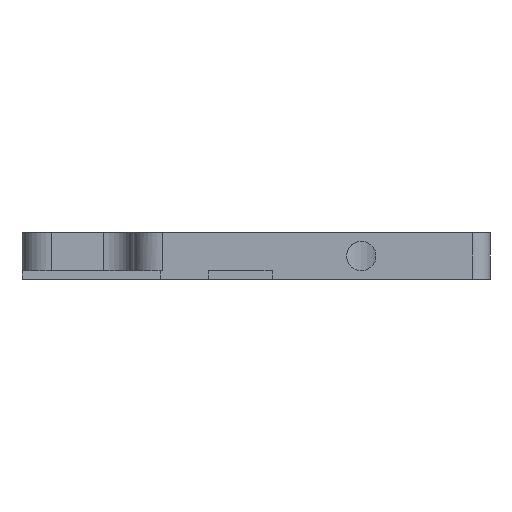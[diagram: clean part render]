
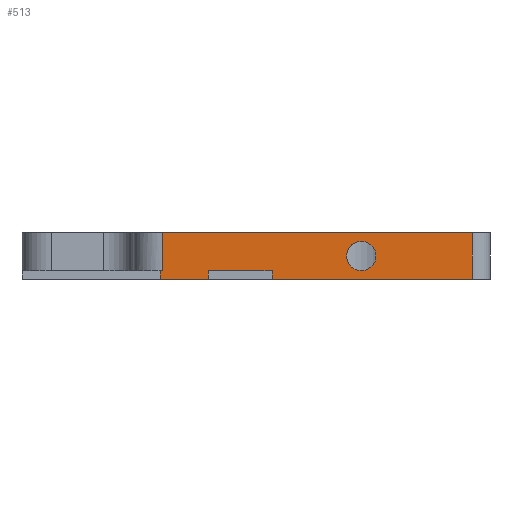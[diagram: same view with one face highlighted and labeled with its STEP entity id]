
A CAD part, left-side view. The second image highlights one B-rep face of the part: STEP entity #513.
In plain terms, the highlighted planar face has unit normal (-1, 0, 0).
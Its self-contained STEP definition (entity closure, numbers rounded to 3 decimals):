
#20 = CARTESIAN_POINT ( 'NONE',  ( 0., 22., 4. ) ) ;
#29 = DIRECTION ( 'NONE',  ( 0., 0., 1. ) ) ;
#32 = DIRECTION ( 'NONE',  ( -1., 0., 0. ) ) ;
#67 = VERTEX_POINT ( 'NONE', #803 ) ;
#112 = VERTEX_POINT ( 'NONE', #896 ) ;
#124 = VERTEX_POINT ( 'NONE', #899 ) ;
#125 = EDGE_CURVE ( 'NONE', #124, #112, #898, .T. ) ;
#170 = EDGE_CURVE ( 'NONE', #394, #289, #937, .T. ) ;
#177 = VERTEX_POINT ( 'NONE', #953 ) ;
#178 = VERTEX_POINT ( 'NONE', #970 ) ;
#252 = EDGE_CURVE ( 'NONE', #347, #67, #1123, .T. ) ;
#257 = VERTEX_POINT ( 'NONE', #1049 ) ;
#259 = EDGE_CURVE ( 'NONE', #257, #67, #1031, .T. ) ;
#289 = VERTEX_POINT ( 'NONE', #1393 ) ;
#295 = EDGE_CURVE ( 'NONE', #394, #177, #1403, .T. ) ;
#347 = VERTEX_POINT ( 'NONE', #1250 ) ;
#394 = VERTEX_POINT ( 'NONE', #1346 ) ;
#413 = EDGE_LOOP ( 'NONE', ( #414, #512 ) ) ;
#414 = ORIENTED_EDGE ( 'NONE', *, *, #530, .F. ) ;
#426 = VERTEX_POINT ( 'NONE', #1430 ) ;
#509 = ORIENTED_EDGE ( 'NONE', *, *, #515, .T. ) ;
#510 = EDGE_LOOP ( 'NONE', ( #522, #509, #525, #524, #529, #528, #599, #523, #517, #527 ) ) ;
#512 = ORIENTED_EDGE ( 'NONE', *, *, #125, .F. ) ;
#513 = ADVANCED_FACE ( 'NONE', ( #1905, #1894 ), #1812, .F. ) ;
#514 = VERTEX_POINT ( 'NONE', #1842 ) ;
#515 = EDGE_CURVE ( 'NONE', #257, #178, #1814, .T. ) ;
#516 = EDGE_CURVE ( 'NONE', #426, #177, #1888, .T. ) ;
#517 = ORIENTED_EDGE ( 'NONE', *, *, #601, .F. ) ;
#522 = ORIENTED_EDGE ( 'NONE', *, *, #259, .F. ) ;
#523 = ORIENTED_EDGE ( 'NONE', *, *, #600, .F. ) ;
#524 = ORIENTED_EDGE ( 'NONE', *, *, #516, .T. ) ;
#525 = ORIENTED_EDGE ( 'NONE', *, *, #602, .T. ) ;
#526 = VERTEX_POINT ( 'NONE', #1743 ) ;
#527 = ORIENTED_EDGE ( 'NONE', *, *, #252, .T. ) ;
#528 = ORIENTED_EDGE ( 'NONE', *, *, #170, .T. ) ;
#529 = ORIENTED_EDGE ( 'NONE', *, *, #295, .F. ) ;
#530 = EDGE_CURVE ( 'NONE', #112, #124, #1835, .T. ) ;
#598 = EDGE_CURVE ( 'NONE', #289, #526, #1503, .T. ) ;
#599 = ORIENTED_EDGE ( 'NONE', *, *, #598, .T. ) ;
#600 = EDGE_CURVE ( 'NONE', #514, #526, #1493, .T. ) ;
#601 = EDGE_CURVE ( 'NONE', #347, #514, #1497, .T. ) ;
#602 = EDGE_CURVE ( 'NONE', #178, #426, #1498, .T. ) ;
#803 = CARTESIAN_POINT ( 'NONE',  ( 0., 48.15, 1.5 ) ) ;
#896 = CARTESIAN_POINT ( 'NONE',  ( 0., 22., 6.5 ) ) ;
#898 = CIRCLE ( 'NONE', #901, 2.5 ) ;
#899 = CARTESIAN_POINT ( 'NONE',  ( 0., 22., 1.5 ) ) ;
#901 = AXIS2_PLACEMENT_3D ( 'NONE', #20, #32, #29 ) ;
#935 = DIRECTION ( 'NONE',  ( 0., 0., -1. ) ) ;
#936 = VECTOR ( 'NONE', #935, 1000. ) ;
#937 = LINE ( 'NONE', #1026, #936 ) ;
#953 = CARTESIAN_POINT ( 'NONE',  ( 0., 3., 8. ) ) ;
#970 = CARTESIAN_POINT ( 'NONE',  ( 0., 37.25, 0. ) ) ;
#1026 = CARTESIAN_POINT ( 'NONE',  ( 0., 56., 8. ) ) ;
#1031 = LINE ( 'NONE', #1127, #1113 ) ;
#1049 = CARTESIAN_POINT ( 'NONE',  ( 0., 37.25, 1.5 ) ) ;
#1112 = DIRECTION ( 'NONE',  ( 0., 1., 0. ) ) ;
#1113 = VECTOR ( 'NONE', #1112, 1000. ) ;
#1120 = DIRECTION ( 'NONE',  ( 0., 0., 1. ) ) ;
#1121 = VECTOR ( 'NONE', #1120, 1000. ) ;
#1122 = CARTESIAN_POINT ( 'NONE',  ( 0., 48.15, 0. ) ) ;
#1123 = LINE ( 'NONE', #1122, #1121 ) ;
#1127 = CARTESIAN_POINT ( 'NONE',  ( 0., 56., 1.5 ) ) ;
#1250 = CARTESIAN_POINT ( 'NONE',  ( 0., 48.15, 0. ) ) ;
#1346 = CARTESIAN_POINT ( 'NONE',  ( 0., 56., 8. ) ) ;
#1393 = CARTESIAN_POINT ( 'NONE',  ( 0., 56., 1.5 ) ) ;
#1403 = LINE ( 'NONE', #1419, #1408 ) ;
#1408 = VECTOR ( 'NONE', #1418, 1000. ) ;
#1418 = DIRECTION ( 'NONE',  ( 0., -1., 0. ) ) ;
#1419 = CARTESIAN_POINT ( 'NONE',  ( 0., 0., 8. ) ) ;
#1430 = CARTESIAN_POINT ( 'NONE',  ( 0., 3., 0. ) ) ;
#1490 = DIRECTION ( 'NONE',  ( 0., 1., 0. ) ) ;
#1491 = DIRECTION ( 'NONE',  ( 0., 0., 1. ) ) ;
#1492 = VECTOR ( 'NONE', #1491, 1000. ) ;
#1493 = LINE ( 'NONE', #1494, #1492 ) ;
#1494 = CARTESIAN_POINT ( 'NONE',  ( 0., 56.35, 0. ) ) ;
#1495 = CARTESIAN_POINT ( 'NONE',  ( 0., 0., 0. ) ) ;
#1496 = VECTOR ( 'NONE', #1490, 1000. ) ;
#1497 = LINE ( 'NONE', #1504, #1496 ) ;
#1498 = LINE ( 'NONE', #1495, #1507 ) ;
#1499 = DIRECTION ( 'NONE',  ( 0., 1., 0. ) ) ;
#1503 = LINE ( 'NONE', #1509, #1508 ) ;
#1504 = CARTESIAN_POINT ( 'NONE',  ( 0., 48.15, 0. ) ) ;
#1506 = DIRECTION ( 'NONE',  ( 0., -1., 0. ) ) ;
#1507 = VECTOR ( 'NONE', #1506, 1000. ) ;
#1508 = VECTOR ( 'NONE', #1499, 1000. ) ;
#1509 = CARTESIAN_POINT ( 'NONE',  ( 0., 48.15, 1.5 ) ) ;
#1743 = CARTESIAN_POINT ( 'NONE',  ( 0., 56.35, 1.5 ) ) ;
#1808 = AXIS2_PLACEMENT_3D ( 'NONE', #1817, #1816, #1815 ) ;
#1809 = DIRECTION ( 'NONE',  ( -1., 0., 0. ) ) ;
#1812 = PLANE ( 'NONE',  #1808 ) ;
#1813 = CARTESIAN_POINT ( 'NONE',  ( 0., 37.25, 1.5 ) ) ;
#1814 = LINE ( 'NONE', #1813, #1890 ) ;
#1815 = DIRECTION ( 'NONE',  ( 0., 0., -1. ) ) ;
#1816 = DIRECTION ( 'NONE',  ( 1., 0., 0. ) ) ;
#1817 = CARTESIAN_POINT ( 'NONE',  ( 0., 0., 8. ) ) ;
#1833 = DIRECTION ( 'NONE',  ( 0., 0., 1. ) ) ;
#1834 = AXIS2_PLACEMENT_3D ( 'NONE', #1861, #1809, #1833 ) ;
#1835 = CIRCLE ( 'NONE', #1834, 2.5 ) ;
#1842 = CARTESIAN_POINT ( 'NONE',  ( 0., 56.35, 0. ) ) ;
#1861 = CARTESIAN_POINT ( 'NONE',  ( 0., 22., 4. ) ) ;
#1862 = CARTESIAN_POINT ( 'NONE',  ( 0., 3., 8. ) ) ;
#1886 = DIRECTION ( 'NONE',  ( 0., 0., 1. ) ) ;
#1887 = VECTOR ( 'NONE', #1886, 1000. ) ;
#1888 = LINE ( 'NONE', #1862, #1887 ) ;
#1889 = DIRECTION ( 'NONE',  ( 0., 0., -1. ) ) ;
#1890 = VECTOR ( 'NONE', #1889, 1000. ) ;
#1894 = FACE_OUTER_BOUND ( 'NONE', #510, .T. ) ;
#1905 = FACE_BOUND ( 'NONE', #413, .T. ) ;
